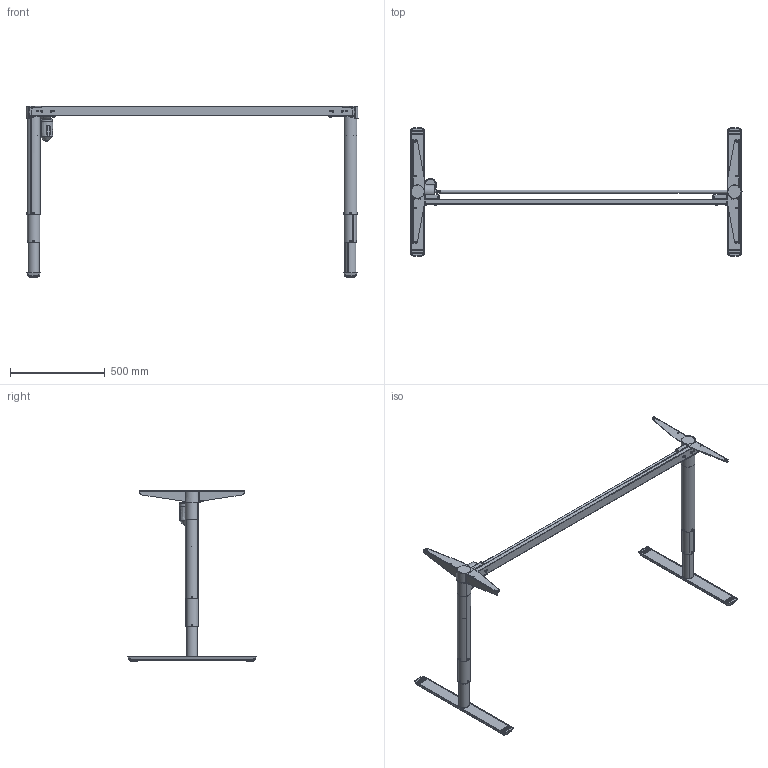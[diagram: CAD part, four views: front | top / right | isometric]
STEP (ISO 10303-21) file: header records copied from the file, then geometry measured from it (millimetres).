
FILE_DESCRIPTION (( 'STEP AP203' ), '1' );
FILE_NAME ('Tech-draw_501-49_XX172.STEP', '2019-09-25T06:56:05', ( '' ), ( '' ), 'SwSTEP 2.0', 'SolidWorks 2018', '' );
FILE_SCHEMA (( 'CONFIG_CONTROL_DESIGN' ));
Length unit declared in the file: millimetre
Products named in the file (35): 324520_silver; 138140_silver1; 344290_shell view; 344150_shell view; 344430_silver; 344300; 144260_172; 344210; 138110_silver; 148950_501-49 XS172; 347910_172; 344630._›65silver; 138130_silver; 341220; 138120_silver1; 340760; 340560; 138860_shell view; 347920_172; 344180; 346600; 343600; 332560; 352590; 344630._›72silver; 344170; 138150_silver; 138100_silver1; 138090_silver; 344220_shell view; 138160_silver1; 139080_silver1; 343610_shell view; 332570; Tech-draw_501-49_XX172
Assembly tree (62 placements, depth 6):
  Tech-draw_501-49_XX172
    148950_501-49 XS172
      347910_172
      144260_172
        347920_172
        340560
        341220
      138090_silver
        138100_silver1
          343600
          344170
          138860_shell view
            344150_shell view
            332560
          346600
        138110_silver
          138120_silver1
            343610_shell view
            344210
            344220_shell view
          139080_silver1
            344290_shell view
          344630._›65silver  x4
        324520_silver  x2
        344430_silver
        344630._›72silver  x4
        352590
      138130_silver
        138140_silver1
          344300
          138860_shell view
            344150_shell view
            332560
          344180
        138150_silver
          138160_silver1
            343610_shell view
            344210
            344220_shell view
          139080_silver1
            344290_shell view
          344630._›65silver  x4
        324520_silver  x2
        344630._›72silver  x4
      340760  x4
      332570  x4
Bounding box: 1751.5 x 679.46 x 902.5 mm (x, y, z)
Volume: 2627575 mm3; surface area: 2793429 mm2
Topology: 51 solids, 51 shells, 4836 faces, 12022 edges, 7257 vertices
Faces by surface type: plane 1686, cylinder 1650, bspline 648, torus 439, sphere 256, cone 157
Full cylindrical faces by diameter (mm): 2.8 x4, 3 x2, 4.6 x4, 5 x4, 6 x10, 7 x8, 7.6 x4, 8 x12, 9 x4, 10 x8, 11.9 x2, 12 x1, 13 x2, 15 x4, 16 x2, 18 x1, 20 x1, 37.6 x8, 58 x2, 58.35 x2, 60 x1, 65 x2, 66.6 x1, 72 x2
Entity records: 81129 total; most frequent: CARTESIAN_POINT 34428, ORIENTED_EDGE 9022, DIRECTION 8574, EDGE_CURVE 4511, AXIS2_PLACEMENT_3D 3316, VERTEX_POINT 2878, EDGE_LOOP 2073, LINE 1942
